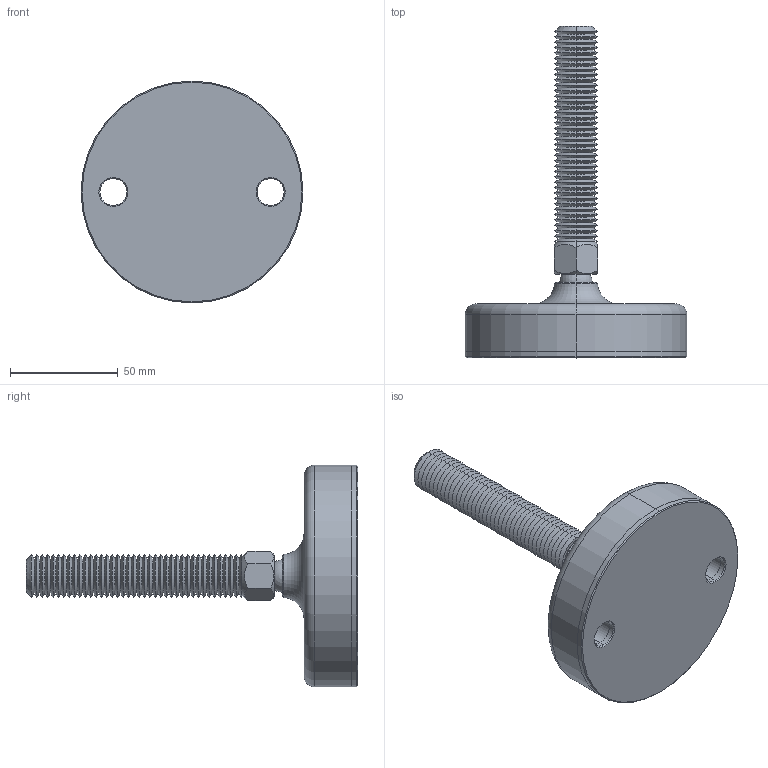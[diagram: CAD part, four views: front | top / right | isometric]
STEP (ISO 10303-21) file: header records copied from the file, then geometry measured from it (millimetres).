
FILE_DESCRIPTION (( 'STEP AP203' ), '1' );
FILE_NAME ('34724.W2008.step', '2019-11-28T22:17:44', ( '' ), ( '' ), 'SwSTEP 2.0', 'SolidWorks 2017', '' );
FILE_SCHEMA (( 'CONFIG_CONTROL_DESIGN' ));
Length unit declared in the file: millimetre
Products named in the file (4): Part1_34724.W2008; Part3_34724.W2008; 34724.W2008; Part2_34724.W2008
Assembly tree (3 placements, depth 2):
  34724.W2008
    Part1_34724.W2008
    Part2_34724.W2008
    Part3_34724.W2008
Bounding box: 103 x 154 x 103 mm (x, y, z)
Volume: 236030.6 mm3; surface area: 55284.5 mm2
Topology: 3 solids, 3 shells, 208 faces, 431 edges, 229 vertices
Faces by surface type: cone 174, plane 14, cylinder 12, sphere 4, torus 4
Entity records: 5866 total; most frequent: DIRECTION 1056, CARTESIAN_POINT 1012, ORIENTED_EDGE 844, AXIS2_PLACEMENT_3D 432, EDGE_CURVE 422, VERTEX_POINT 224, EDGE_LOOP 220, CIRCLE 218
